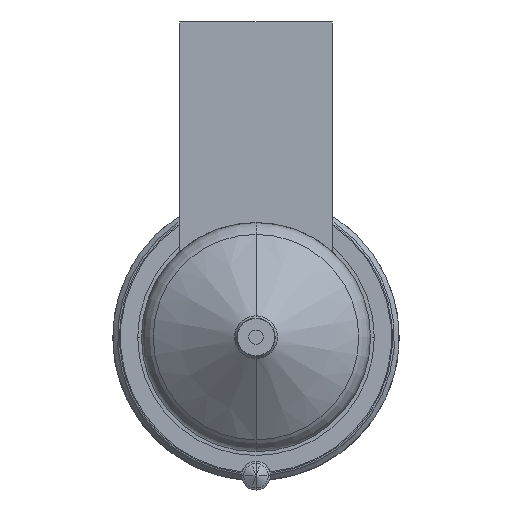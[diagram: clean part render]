
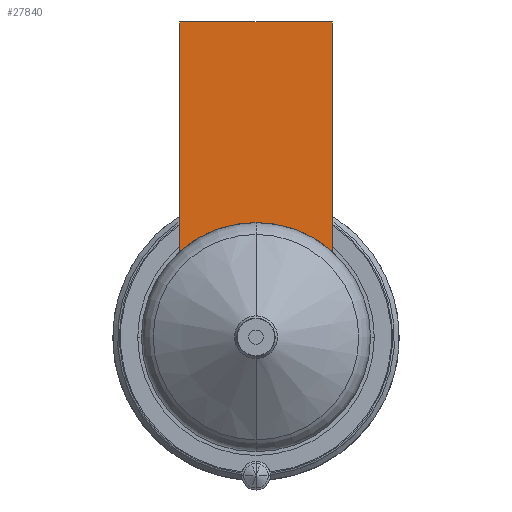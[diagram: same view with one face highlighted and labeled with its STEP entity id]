
A CAD part, front view. The second image highlights one B-rep face of the part: STEP entity #27840.
In plain terms, the highlighted planar face has unit normal (0, -1, 0).
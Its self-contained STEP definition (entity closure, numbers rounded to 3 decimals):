
#27152=DIRECTION('',(0.,0.,-1.));
#27153=VECTOR('',#27152,24.056);
#27154=CARTESIAN_POINT('',(-8.,-56.,33.));
#27155=LINE('',#27154,#27153);
#27192=DIRECTION('',(1.,0.,0.));
#27193=VECTOR('',#27192,16.);
#27194=CARTESIAN_POINT('',(-8.,-56.,33.));
#27195=LINE('',#27194,#27193);
#27199=CARTESIAN_POINT('',(0.,-56.,0.));
#27200=DIRECTION('',(0.,-1.,0.));
#27201=DIRECTION('',(0.667,0.,0.745));
#27202=AXIS2_PLACEMENT_3D('',#27199,#27200,#27201);
#27207=CARTESIAN_POINT('',(0.,-56.,0.));
#27208=DIRECTION('',(0.,-1.,0.));
#27209=DIRECTION('',(0.,0.,1.));
#27210=AXIS2_PLACEMENT_3D('',#27207,#27208,#27209);
#27243=DIRECTION('',(0.,0.,-1.));
#27244=VECTOR('',#27243,24.056);
#27245=CARTESIAN_POINT('',(8.,-56.,33.));
#27246=LINE('',#27245,#27244);
#27704=CARTESIAN_POINT('',(-8.,-56.,33.));
#27705=VERTEX_POINT('',#27704);
#27710=CARTESIAN_POINT('',(8.,-56.,33.));
#27711=VERTEX_POINT('',#27710);
#27714=CARTESIAN_POINT('',(-8.,-56.,8.944));
#27715=VERTEX_POINT('',#27714);
#27718=CARTESIAN_POINT('',(8.,-56.,8.944));
#27719=VERTEX_POINT('',#27718);
#27759=CARTESIAN_POINT('',(0.,-56.,12.));
#27760=VERTEX_POINT('',#27759);
#27825=CARTESIAN_POINT('',(-8.,-56.,33.));
#27826=DIRECTION('',(0.,-1.,0.));
#27827=DIRECTION('',(0.,0.,-1.));
#27828=AXIS2_PLACEMENT_3D('',#27825,#27826,#27827);
#27829=PLANE('',#27828);
#27830=ORIENTED_EDGE('',*,*,#27773,.F.);
#27832=ORIENTED_EDGE('',*,*,#27831,.T.);
#27834=ORIENTED_EDGE('',*,*,#27833,.T.);
#27836=ORIENTED_EDGE('',*,*,#27835,.T.);
#27837=ORIENTED_EDGE('',*,*,#27805,.T.);
#27838=EDGE_LOOP('',(#27830,#27832,#27834,#27836,#27837));
#27839=FACE_OUTER_BOUND('',#27838,.F.);
#27840=ADVANCED_FACE('',(#27839),#27829,.T.);
#27203=CIRCLE('',#27202,12.);
#27211=CIRCLE('',#27210,12.);
#27773=EDGE_CURVE('',#27705,#27715,#27155,.T.);
#27805=EDGE_CURVE('',#27760,#27715,#27211,.T.);
#27831=EDGE_CURVE('',#27705,#27711,#27195,.T.);
#27833=EDGE_CURVE('',#27711,#27719,#27246,.T.);
#27835=EDGE_CURVE('',#27719,#27760,#27203,.T.);
